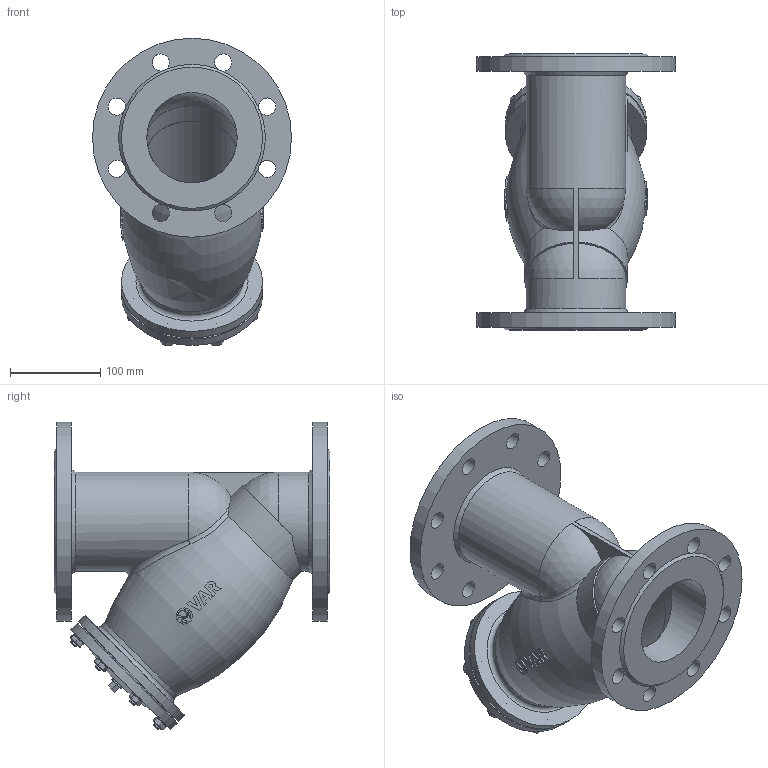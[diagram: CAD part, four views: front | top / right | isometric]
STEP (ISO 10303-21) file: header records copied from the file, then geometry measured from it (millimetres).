
FILE_DESCRIPTION(('STEP AP203'), '1');
FILE_NAME('VAR STRAINER ôèëüòð-ãðÿçåóëîâèòåëü', '', ('UNSPECIFIED'), ('UNSPECIFIED'), 'C3D Converter', 'C3D Toolkit', '');
FILE_SCHEMA(('CONFIG_CONTROL_DESIGN'));
Length unit declared in the file: millimetre
Assembly tree (29 placements, depth 2):
  (unnamed)
    (unnamed)
    (unnamed)
    (unnamed)  x8
    (unnamed)  x8
    (unnamed)  x8
    (unnamed)
    (unnamed)
    (unnamed)
Bounding box: 220 x 305 x 340 mm (x, y, z)
Volume: 2284639.8 mm3; surface area: 678622.6 mm2
Topology: 30 solids, 30 shells, 549 faces, 1369 edges, 896 vertices
Faces by surface type: plane 221, extrusion 138, cylinder 88, cone 60, torus 28, sphere 8, bspline 6
Full cylindrical faces by diameter (mm): 8 x24, 9 x8, 10 x10, 14.4 x8, 15 x1, 17.763 x1, 19 x16, 100 x6, 104 x3, 110 x1, 114 x1, 118 x1, 120 x2, 156 x2, 220 x2
Entity records: 26569 total; most frequent: CARTESIAN_POINT 14632, ORIENTED_EDGE 1934, DIRECTION 1447, EDGE_CURVE 967, VERTEX_POINT 690, B_SPLINE_CURVE_WITH_KNOTS 591, EDGE_LOOP 557, AXIS2_PLACEMENT_3D 522
